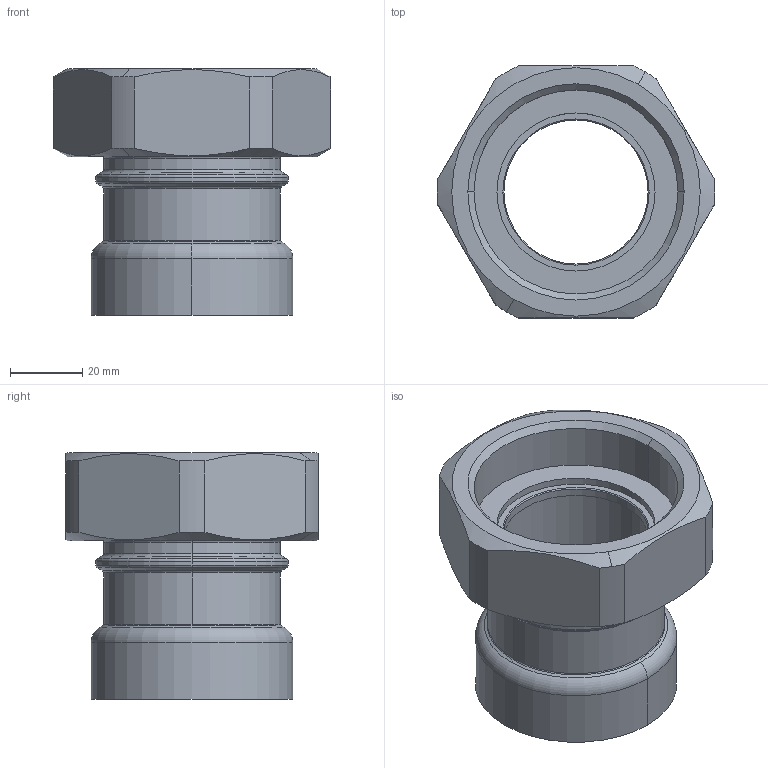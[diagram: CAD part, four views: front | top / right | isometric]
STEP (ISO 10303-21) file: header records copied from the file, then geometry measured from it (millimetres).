
FILE_DESCRIPTION(('Creo Elements/Direct Modeling STEP Export'),'2;1');
FILE_NAME('C9446_1-1-4_G2.stp','2020-07-20T15:29:50',(''),(''),'PTC Creo Elements/Direct Modeling STEP processor for AP214 (Solid Model)','PTC Creo Elements/Direct Modeling 19.0C 15-Aug-2015 (C) Parametric Technology GmbH','');
FILE_SCHEMA(('AUTOMOTIVE_DESIGN { 1 0 10303 214 1 1 1 1 }'));
Length unit declared in the file: millimetre
Products named in the file (2): C9446_1-1-4_G2
Assembly tree (1 placements, depth 2):
  C9446_1-1-4_G2
    C9446_1-1-4_G2
Bounding box: 76.96 x 70 x 68.55 mm (x, y, z)
Volume: 82163.8 mm3; surface area: 29316 mm2
Topology: 1 solids, 1 shells, 62 faces, 142 edges, 86 vertices
Faces by surface type: cylinder 22, cone 14, torus 14, plane 12
Entity records: 2616 total; most frequent: CARTESIAN_POINT 1229, ORIENTED_EDGE 284, DIRECTION 276, EDGE_CURVE 142, AXIS2_PLACEMENT_3D 117, VERTEX_POINT 86, EDGE_LOOP 68, FACE_OUTER_BOUND 62
